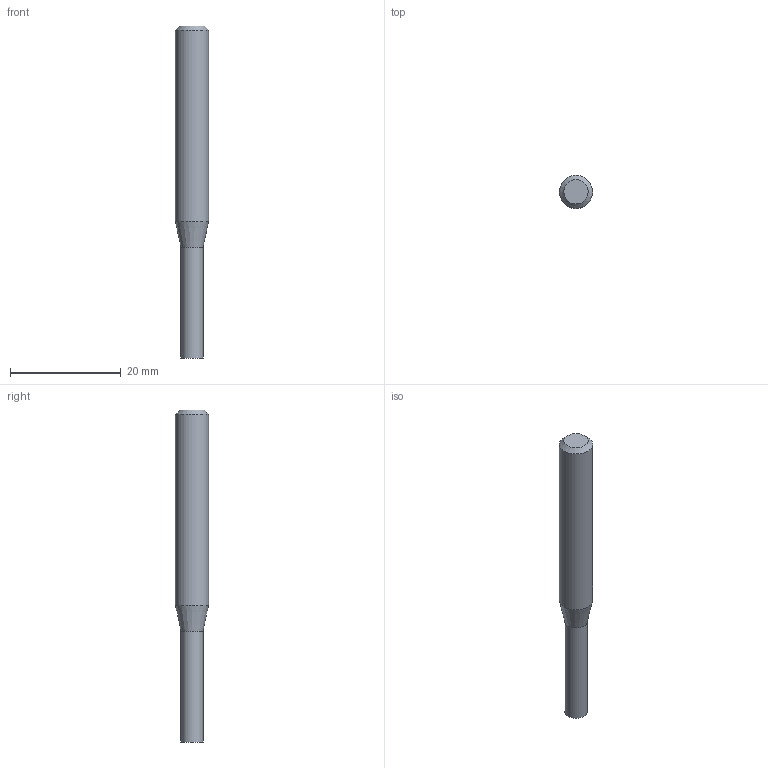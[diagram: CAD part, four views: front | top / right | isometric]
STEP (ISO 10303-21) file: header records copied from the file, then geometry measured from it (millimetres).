
FILE_DESCRIPTION((''),'2;1');
FILE_NAME('C:\Users\nsx150\AppData\Local\Temp\Mastercam 2021\E36A1X9CCL\TEMP.step','2023-04-21T15:28:13',(''),(''),'STEP Write','Mastercam 2021 ... CNC Software, Inc.','');
FILE_SCHEMA(('AUTOMOTIVE_DESIGN'));
Length unit declared in the file: millimetre
Products named in the file (1): None
Bounding box: 6 x 6 x 60 mm (x, y, z)
Volume: 1337.4 mm3; surface area: 1048.5 mm2
Topology: 2 solids, 2 shells, 8 faces, 10 edges, 6 vertices
Faces by surface type: plane 4, cylinder 2, cone 2
Full cylindrical faces by diameter (mm): 4 x1, 6 x1
Entity records: 190 total; most frequent: DIRECTION 32, CARTESIAN_POINT 22, AXIS2_PLACEMENT_3D 16, ORIENTED_EDGE 12, EDGE_LOOP 12, STYLED_ITEM 11, ADVANCED_FACE 8, VERTEX_POINT 6
